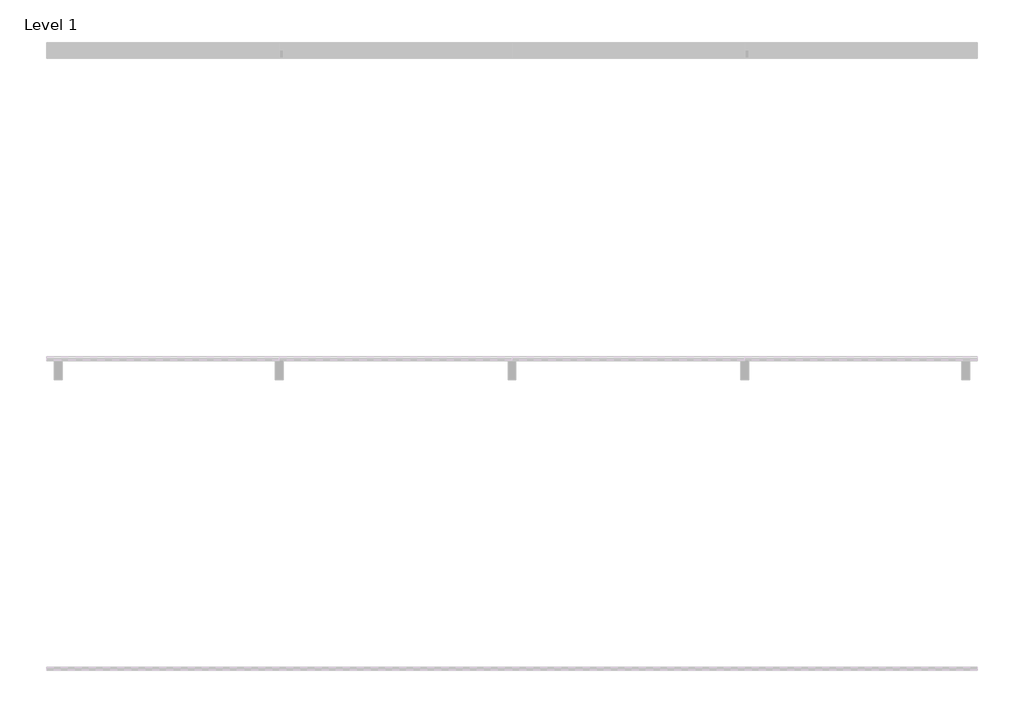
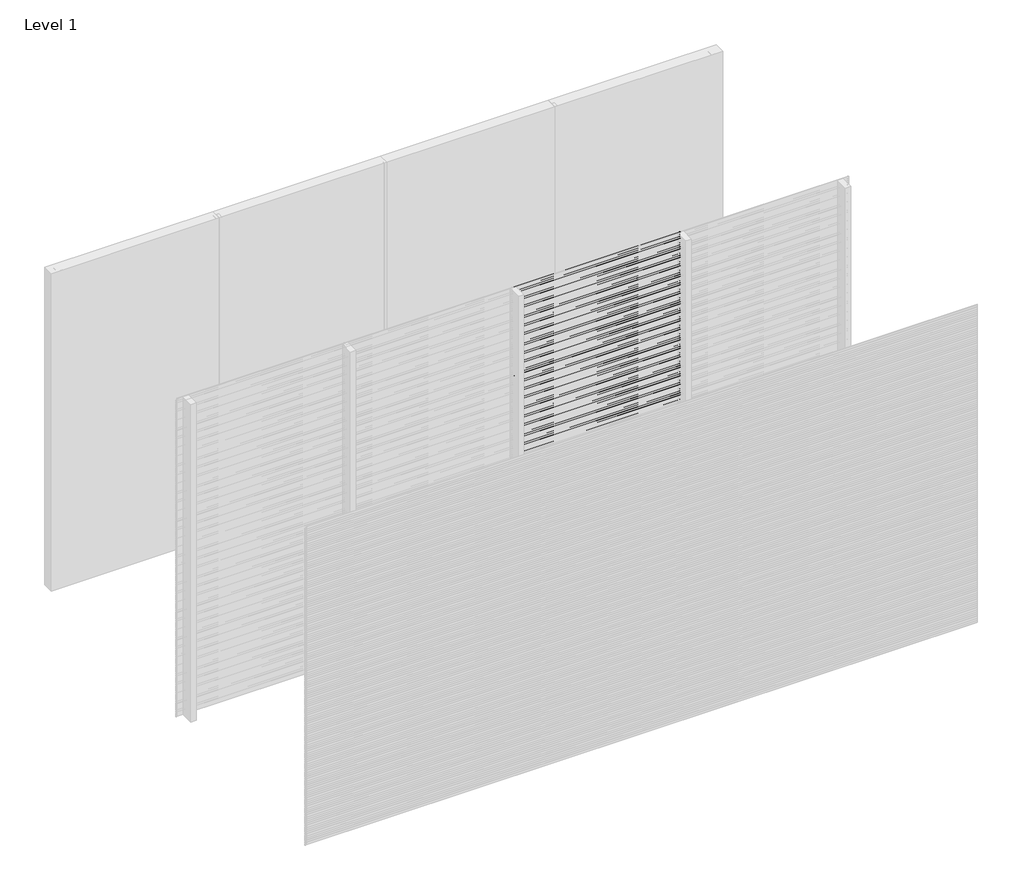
# One storey, part 6 of 31: 97 proxies.
"""IFC4 building model written with IfcOpenShell, lengths in millimetres."""

from ifc_helpers import new_model, si_unit, frame, origin, place, context, project, spatial, polyline, outline, extrude, element, save

model = new_model("IFC4")

# Units and contexts
model_context = context("Model", 3, world=origin())
ifc_project = project(units=[si_unit("LENGTHUNIT", "METRE", prefix="MILLI")], contexts=[model_context])

# Site, building, storey
site = spatial("IfcSite", under=ifc_project)
building = spatial("IfcBuilding", under=site)
storey = spatial("IfcBuildingStorey", under=building, Name="Level 1", Elevation=0.0)

# Proxies
placement = place(None, origin())
element("IfcBuildingElementProxy", 1, Name="Wall Sweeps", at=placement, inside=storey, context=model_context, shape_type="SweptSolid", body=[
    extrude(outline(polyline([(-17995.0, 3000.0), (-17995.0, 2988.942893), (-17976.0, 2973.0), (-17976.0, 2960.0), (-17997.0, 2977.6210923), (-17997.0, 3000.0), (-17995.0, 3000.0)])), frame((3000.0, 0.0, 0.0), z_axis=(1.0, 0.0, 0.0), x_axis=(0.0, 1.0, 0.0)), (0.0, 0.0, 1.0), 1499.9999998),
])
element("IfcBuildingElementProxy", 2, Name="Wall Sweeps", at=placement, inside=storey, context=model_context, shape_type="SweptSolid", body=[
    extrude(outline(polyline([(-17995.0, 2980.0), (-17995.0, 2968.942893), (-17976.0, 2953.0), (-17976.0, 2940.0), (-17997.0, 2957.6210923), (-17997.0, 2980.0), (-17995.0, 2980.0)])), frame((3000.0, 0.0, 0.0), z_axis=(1.0, 0.0, 0.0), x_axis=(0.0, 1.0, 0.0)), (0.0, 0.0, 1.0), 1499.9999998),
])
element("IfcBuildingElementProxy", 3, Name="Wall Sweeps", at=placement, inside=storey, context=model_context, shape_type="SweptSolid", body=[
    extrude(outline(polyline([(-17995.0, 2960.0), (-17995.0, 2948.942893), (-17976.0, 2933.0), (-17976.0, 2920.0), (-17997.0, 2937.6210923), (-17997.0, 2960.0), (-17995.0, 2960.0)])), frame((3000.0, 0.0, 0.0), z_axis=(1.0, 0.0, 0.0), x_axis=(0.0, 1.0, 0.0)), (0.0, 0.0, 1.0), 1499.9999998),
])
element("IfcBuildingElementProxy", 4, Name="Wall Sweeps", at=placement, inside=storey, context=model_context, shape_type="SweptSolid", body=[
    extrude(outline(polyline([(-17995.0, 2940.0), (-17995.0, 2928.942893), (-17976.0, 2913.0), (-17976.0, 2900.0), (-17997.0, 2917.6210923), (-17997.0, 2940.0), (-17995.0, 2940.0)])), frame((3000.0, 0.0, 0.0), z_axis=(1.0, 0.0, 0.0), x_axis=(0.0, 1.0, 0.0)), (0.0, 0.0, 1.0), 1499.9999998),
])
element("IfcBuildingElementProxy", 5, Name="Wall Sweeps", at=placement, inside=storey, context=model_context, shape_type="SweptSolid", body=[
    extrude(outline(polyline([(-17995.0, 2920.0), (-17995.0, 2908.942893), (-17976.0, 2893.0), (-17976.0, 2880.0), (-17997.0, 2897.6210923), (-17997.0, 2920.0), (-17995.0, 2920.0)])), frame((3000.0, 0.0, 0.0), z_axis=(1.0, 0.0, 0.0), x_axis=(0.0, 1.0, 0.0)), (0.0, 0.0, 1.0), 1499.9999998),
])
element("IfcBuildingElementProxy", 6, Name="Wall Sweeps", at=placement, inside=storey, context=model_context, shape_type="SweptSolid", body=[
    extrude(outline(polyline([(-17995.0, 2900.0), (-17995.0, 2888.942893), (-17976.0, 2873.0), (-17976.0, 2860.0), (-17997.0, 2877.6210923), (-17997.0, 2900.0), (-17995.0, 2900.0)])), frame((3000.0, 0.0, 0.0), z_axis=(1.0, 0.0, 0.0), x_axis=(0.0, 1.0, 0.0)), (0.0, 0.0, 1.0), 1499.9999998),
])
element("IfcBuildingElementProxy", 7, Name="Wall Sweeps", at=placement, inside=storey, context=model_context, shape_type="SweptSolid", body=[
    extrude(outline(polyline([(-17995.0, 2880.0), (-17995.0, 2868.942893), (-17976.0, 2853.0), (-17976.0, 2840.0), (-17997.0, 2857.6210923), (-17997.0, 2880.0), (-17995.0, 2880.0)])), frame((3000.0, 0.0, 0.0), z_axis=(1.0, 0.0, 0.0), x_axis=(0.0, 1.0, 0.0)), (0.0, 0.0, 1.0), 1499.9999998),
])
element("IfcBuildingElementProxy", 8, Name="Wall Sweeps", at=placement, inside=storey, context=model_context, shape_type="SweptSolid", body=[
    extrude(outline(polyline([(-17995.0, 2860.0), (-17995.0, 2848.942893), (-17976.0, 2833.0), (-17976.0, 2820.0), (-17997.0, 2837.6210923), (-17997.0, 2860.0), (-17995.0, 2860.0)])), frame((3000.0, 0.0, 0.0), z_axis=(1.0, 0.0, 0.0), x_axis=(0.0, 1.0, 0.0)), (0.0, 0.0, 1.0), 1499.9999998),
])
element("IfcBuildingElementProxy", 9, Name="Wall Sweeps", at=placement, inside=storey, context=model_context, shape_type="SweptSolid", body=[
    extrude(outline(polyline([(-17995.0, 2840.0), (-17995.0, 2828.942893), (-17976.0, 2813.0), (-17976.0, 2800.0), (-17997.0, 2817.6210923), (-17997.0, 2840.0), (-17995.0, 2840.0)])), frame((3000.0, 0.0, 0.0), z_axis=(1.0, 0.0, 0.0), x_axis=(0.0, 1.0, 0.0)), (0.0, 0.0, 1.0), 1499.9999998),
])
element("IfcBuildingElementProxy", 10, Name="Wall Sweeps", at=placement, inside=storey, context=model_context, shape_type="SweptSolid", body=[
    extrude(outline(polyline([(-17995.0, 2820.0), (-17995.0, 2808.942893), (-17976.0, 2793.0), (-17976.0, 2780.0), (-17997.0, 2797.6210923), (-17997.0, 2820.0), (-17995.0, 2820.0)])), frame((3000.0, 0.0, 0.0), z_axis=(1.0, 0.0, 0.0), x_axis=(0.0, 1.0, 0.0)), (0.0, 0.0, 1.0), 1499.9999998),
])
element("IfcBuildingElementProxy", 11, Name="Wall Sweeps", at=placement, inside=storey, context=model_context, shape_type="SweptSolid", body=[
    extrude(outline(polyline([(-17995.0, 2800.0), (-17995.0, 2788.942893), (-17976.0, 2773.0), (-17976.0, 2760.0), (-17997.0, 2777.6210923), (-17997.0, 2800.0), (-17995.0, 2800.0)])), frame((3000.0, 0.0, 0.0), z_axis=(1.0, 0.0, 0.0), x_axis=(0.0, 1.0, 0.0)), (0.0, 0.0, 1.0), 1499.9999998),
])
element("IfcBuildingElementProxy", 12, Name="Wall Sweeps", at=placement, inside=storey, context=model_context, shape_type="SweptSolid", body=[
    extrude(outline(polyline([(-17995.0, 2780.0), (-17995.0, 2768.942893), (-17976.0, 2753.0), (-17976.0, 2740.0), (-17997.0, 2757.6210923), (-17997.0, 2780.0), (-17995.0, 2780.0)])), frame((3000.0, 0.0, 0.0), z_axis=(1.0, 0.0, 0.0), x_axis=(0.0, 1.0, 0.0)), (0.0, 0.0, 1.0), 1499.9999998),
])
element("IfcBuildingElementProxy", 13, Name="Wall Sweeps", at=placement, inside=storey, context=model_context, shape_type="SweptSolid", body=[
    extrude(outline(polyline([(-17995.0, 2760.0), (-17995.0, 2748.942893), (-17976.0, 2733.0), (-17976.0, 2720.0), (-17997.0, 2737.6210923), (-17997.0, 2760.0), (-17995.0, 2760.0)])), frame((3000.0, 0.0, 0.0), z_axis=(1.0, 0.0, 0.0), x_axis=(0.0, 1.0, 0.0)), (0.0, 0.0, 1.0), 1499.9999998),
])
element("IfcBuildingElementProxy", 14, Name="Wall Sweeps", at=placement, inside=storey, context=model_context, shape_type="SweptSolid", body=[
    extrude(outline(polyline([(-17995.0, 2740.0), (-17995.0, 2728.942893), (-17976.0, 2713.0), (-17976.0, 2700.0), (-17997.0, 2717.6210923), (-17997.0, 2740.0), (-17995.0, 2740.0)])), frame((3000.0, 0.0, 0.0), z_axis=(1.0, 0.0, 0.0), x_axis=(0.0, 1.0, 0.0)), (0.0, 0.0, 1.0), 1499.9999998),
])
element("IfcBuildingElementProxy", 15, Name="Wall Sweeps", at=placement, inside=storey, context=model_context, shape_type="SweptSolid", body=[
    extrude(outline(polyline([(-17995.0, 2720.0), (-17995.0, 2708.942893), (-17976.0, 2693.0), (-17976.0, 2680.0), (-17997.0, 2697.6210923), (-17997.0, 2720.0), (-17995.0, 2720.0)])), frame((3000.0, 0.0, 0.0), z_axis=(1.0, 0.0, 0.0), x_axis=(0.0, 1.0, 0.0)), (0.0, 0.0, 1.0), 1499.9999998),
])
element("IfcBuildingElementProxy", 16, Name="Wall Sweeps", at=placement, inside=storey, context=model_context, shape_type="SweptSolid", body=[
    extrude(outline(polyline([(-17995.0, 2700.0), (-17995.0, 2688.942893), (-17976.0, 2673.0), (-17976.0, 2660.0), (-17997.0, 2677.6210923), (-17997.0, 2700.0), (-17995.0, 2700.0)])), frame((3000.0, 0.0, 0.0), z_axis=(1.0, 0.0, 0.0), x_axis=(0.0, 1.0, 0.0)), (0.0, 0.0, 1.0), 1499.9999998),
])
element("IfcBuildingElementProxy", 17, Name="Wall Sweeps", at=placement, inside=storey, context=model_context, shape_type="SweptSolid", body=[
    extrude(outline(polyline([(-17995.0, 2680.0), (-17995.0, 2668.942893), (-17976.0, 2653.0), (-17976.0, 2640.0), (-17997.0, 2657.6210923), (-17997.0, 2680.0), (-17995.0, 2680.0)])), frame((3000.0, 0.0, 0.0), z_axis=(1.0, 0.0, 0.0), x_axis=(0.0, 1.0, 0.0)), (0.0, 0.0, 1.0), 1499.9999998),
])
element("IfcBuildingElementProxy", 18, Name="Wall Sweeps", at=placement, inside=storey, context=model_context, shape_type="SweptSolid", body=[
    extrude(outline(polyline([(-17995.0, 2660.0), (-17995.0, 2648.942893), (-17976.0, 2633.0), (-17976.0, 2620.0), (-17997.0, 2637.6210923), (-17997.0, 2660.0), (-17995.0, 2660.0)])), frame((3000.0, 0.0, 0.0), z_axis=(1.0, 0.0, 0.0), x_axis=(0.0, 1.0, 0.0)), (0.0, 0.0, 1.0), 1499.9999998),
])
element("IfcBuildingElementProxy", 19, Name="Wall Sweeps", at=placement, inside=storey, context=model_context, shape_type="SweptSolid", body=[
    extrude(outline(polyline([(-17995.0, 2640.0), (-17995.0, 2628.942893), (-17976.0, 2613.0), (-17976.0, 2600.0), (-17997.0, 2617.6210923), (-17997.0, 2640.0), (-17995.0, 2640.0)])), frame((3000.0, 0.0, 0.0), z_axis=(1.0, 0.0, 0.0), x_axis=(0.0, 1.0, 0.0)), (0.0, 0.0, 1.0), 1499.9999998),
])
element("IfcBuildingElementProxy", 20, Name="Wall Sweeps", at=placement, inside=storey, context=model_context, shape_type="SweptSolid", body=[
    extrude(outline(polyline([(-17995.0, 2620.0), (-17995.0, 2608.942893), (-17976.0, 2593.0), (-17976.0, 2580.0), (-17997.0, 2597.6210923), (-17997.0, 2620.0), (-17995.0, 2620.0)])), frame((3000.0, 0.0, 0.0), z_axis=(1.0, 0.0, 0.0), x_axis=(0.0, 1.0, 0.0)), (0.0, 0.0, 1.0), 1499.9999998),
])
element("IfcBuildingElementProxy", 21, Name="Wall Sweeps", at=placement, inside=storey, context=model_context, shape_type="SweptSolid", body=[
    extrude(outline(polyline([(-17995.0, 2600.0), (-17995.0, 2588.942893), (-17976.0, 2573.0), (-17976.0, 2560.0), (-17997.0, 2577.6210923), (-17997.0, 2600.0), (-17995.0, 2600.0)])), frame((3000.0, 0.0, 0.0), z_axis=(1.0, 0.0, 0.0), x_axis=(0.0, 1.0, 0.0)), (0.0, 0.0, 1.0), 1499.9999998),
])
element("IfcBuildingElementProxy", 22, Name="Wall Sweeps", at=placement, inside=storey, context=model_context, shape_type="SweptSolid", body=[
    extrude(outline(polyline([(-17995.0, 2580.0), (-17995.0, 2568.942893), (-17976.0, 2553.0), (-17976.0, 2540.0), (-17997.0, 2557.6210923), (-17997.0, 2580.0), (-17995.0, 2580.0)])), frame((3000.0, 0.0, 0.0), z_axis=(1.0, 0.0, 0.0), x_axis=(0.0, 1.0, 0.0)), (0.0, 0.0, 1.0), 1499.9999998),
])
element("IfcBuildingElementProxy", 23, Name="Wall Sweeps", at=placement, inside=storey, context=model_context, shape_type="SweptSolid", body=[
    extrude(outline(polyline([(-17995.0, 2560.0), (-17995.0, 2548.942893), (-17976.0, 2533.0), (-17976.0, 2520.0), (-17997.0, 2537.6210923), (-17997.0, 2560.0), (-17995.0, 2560.0)])), frame((3000.0, 0.0, 0.0), z_axis=(1.0, 0.0, 0.0), x_axis=(0.0, 1.0, 0.0)), (0.0, 0.0, 1.0), 1499.9999998),
])
element("IfcBuildingElementProxy", 24, Name="Wall Sweeps", at=placement, inside=storey, context=model_context, shape_type="SweptSolid", body=[
    extrude(outline(polyline([(-17995.0, 2540.0), (-17995.0, 2528.942893), (-17976.0, 2513.0), (-17976.0, 2500.0), (-17997.0, 2517.6210923), (-17997.0, 2540.0), (-17995.0, 2540.0)])), frame((3000.0, 0.0, 0.0), z_axis=(1.0, 0.0, 0.0), x_axis=(0.0, 1.0, 0.0)), (0.0, 0.0, 1.0), 1499.9999998),
])
element("IfcBuildingElementProxy", 25, Name="Wall Sweeps", at=placement, inside=storey, context=model_context, shape_type="SweptSolid", body=[
    extrude(outline(polyline([(-17995.0, 2520.0), (-17995.0, 2508.942893), (-17976.0, 2493.0), (-17976.0, 2480.0), (-17997.0, 2497.6210923), (-17997.0, 2520.0), (-17995.0, 2520.0)])), frame((3000.0, 0.0, 0.0), z_axis=(1.0, 0.0, 0.0), x_axis=(0.0, 1.0, 0.0)), (0.0, 0.0, 1.0), 1499.9999998),
])
element("IfcBuildingElementProxy", 26, Name="Wall Sweeps", at=placement, inside=storey, context=model_context, shape_type="SweptSolid", body=[
    extrude(outline(polyline([(-17995.0, 2500.0), (-17995.0, 2488.942893), (-17976.0, 2473.0), (-17976.0, 2460.0), (-17997.0, 2477.6210923), (-17997.0, 2500.0), (-17995.0, 2500.0)])), frame((3000.0, 0.0, 0.0), z_axis=(1.0, 0.0, 0.0), x_axis=(0.0, 1.0, 0.0)), (0.0, 0.0, 1.0), 1499.9999998),
])
element("IfcBuildingElementProxy", 27, Name="Wall Sweeps", at=placement, inside=storey, context=model_context, shape_type="SweptSolid", body=[
    extrude(outline(polyline([(-17995.0, 2480.0), (-17995.0, 2468.942893), (-17976.0, 2453.0), (-17976.0, 2440.0), (-17997.0, 2457.6210923), (-17997.0, 2480.0), (-17995.0, 2480.0)])), frame((3000.0, 0.0, 0.0), z_axis=(1.0, 0.0, 0.0), x_axis=(0.0, 1.0, 0.0)), (0.0, 0.0, 1.0), 1499.9999998),
])
element("IfcBuildingElementProxy", 28, Name="Wall Sweeps", at=placement, inside=storey, context=model_context, shape_type="SweptSolid", body=[
    extrude(outline(polyline([(-17995.0, 2460.0), (-17995.0, 2448.942893), (-17976.0, 2433.0), (-17976.0, 2420.0), (-17997.0, 2437.6210923), (-17997.0, 2460.0), (-17995.0, 2460.0)])), frame((3000.0, 0.0, 0.0), z_axis=(1.0, 0.0, 0.0), x_axis=(0.0, 1.0, 0.0)), (0.0, 0.0, 1.0), 1499.9999998),
])
element("IfcBuildingElementProxy", 29, Name="Wall Sweeps", at=placement, inside=storey, context=model_context, shape_type="SweptSolid", body=[
    extrude(outline(polyline([(-17995.0, 2440.0), (-17995.0, 2428.942893), (-17976.0, 2413.0), (-17976.0, 2400.0), (-17997.0, 2417.6210923), (-17997.0, 2440.0), (-17995.0, 2440.0)])), frame((3000.0, 0.0, 0.0), z_axis=(1.0, 0.0, 0.0), x_axis=(0.0, 1.0, 0.0)), (0.0, 0.0, 1.0), 1499.9999998),
])
element("IfcBuildingElementProxy", 30, Name="Wall Sweeps", at=placement, inside=storey, context=model_context, shape_type="SweptSolid", body=[
    extrude(outline(polyline([(-17995.0, 2420.0), (-17995.0, 2408.942893), (-17976.0, 2393.0), (-17976.0, 2380.0), (-17997.0, 2397.6210923), (-17997.0, 2420.0), (-17995.0, 2420.0)])), frame((3000.0, 0.0, 0.0), z_axis=(1.0, 0.0, 0.0), x_axis=(0.0, 1.0, 0.0)), (0.0, 0.0, 1.0), 1499.9999998),
])
element("IfcBuildingElementProxy", 31, Name="Wall Sweeps", at=placement, inside=storey, context=model_context, shape_type="SweptSolid", body=[
    extrude(outline(polyline([(-17995.0, 2400.0), (-17995.0, 2388.942893), (-17976.0, 2373.0), (-17976.0, 2360.0), (-17997.0, 2377.6210923), (-17997.0, 2400.0), (-17995.0, 2400.0)])), frame((3000.0, 0.0, 0.0), z_axis=(1.0, 0.0, 0.0), x_axis=(0.0, 1.0, 0.0)), (0.0, 0.0, 1.0), 1499.9999998),
])
element("IfcBuildingElementProxy", 32, Name="Wall Sweeps", at=placement, inside=storey, context=model_context, shape_type="SweptSolid", body=[
    extrude(outline(polyline([(-17995.0, 2380.0), (-17995.0, 2368.942893), (-17976.0, 2353.0), (-17976.0, 2340.0), (-17997.0, 2357.6210923), (-17997.0, 2380.0), (-17995.0, 2380.0)])), frame((3000.0, 0.0, 0.0), z_axis=(1.0, 0.0, 0.0), x_axis=(0.0, 1.0, 0.0)), (0.0, 0.0, 1.0), 1499.9999998),
])
element("IfcBuildingElementProxy", 33, Name="Wall Sweeps", at=placement, inside=storey, context=model_context, shape_type="SweptSolid", body=[
    extrude(outline(polyline([(-17995.0, 2360.0), (-17995.0, 2348.942893), (-17976.0, 2333.0), (-17976.0, 2320.0), (-17997.0, 2337.6210923), (-17997.0, 2360.0), (-17995.0, 2360.0)])), frame((3000.0, 0.0, 0.0), z_axis=(1.0, 0.0, 0.0), x_axis=(0.0, 1.0, 0.0)), (0.0, 0.0, 1.0), 1499.9999998),
])
element("IfcBuildingElementProxy", 34, Name="Wall Sweeps", at=placement, inside=storey, context=model_context, shape_type="SweptSolid", body=[
    extrude(outline(polyline([(-17995.0, 2340.0), (-17995.0, 2328.942893), (-17976.0, 2313.0), (-17976.0, 2300.0), (-17997.0, 2317.6210923), (-17997.0, 2340.0), (-17995.0, 2340.0)])), frame((3000.0, 0.0, 0.0), z_axis=(1.0, 0.0, 0.0), x_axis=(0.0, 1.0, 0.0)), (0.0, 0.0, 1.0), 1499.9999998),
])
element("IfcBuildingElementProxy", 35, Name="Wall Sweeps", at=placement, inside=storey, context=model_context, shape_type="SweptSolid", body=[
    extrude(outline(polyline([(-17995.0, 2320.0), (-17995.0, 2308.942893), (-17976.0, 2293.0), (-17976.0, 2280.0), (-17997.0, 2297.6210923), (-17997.0, 2320.0), (-17995.0, 2320.0)])), frame((3000.0, 0.0, 0.0), z_axis=(1.0, 0.0, 0.0), x_axis=(0.0, 1.0, 0.0)), (0.0, 0.0, 1.0), 1499.9999998),
])
element("IfcBuildingElementProxy", 36, Name="Wall Sweeps", at=placement, inside=storey, context=model_context, shape_type="SweptSolid", body=[
    extrude(outline(polyline([(-17995.0, 2300.0), (-17995.0, 2288.942893), (-17976.0, 2273.0), (-17976.0, 2260.0), (-17997.0, 2277.6210923), (-17997.0, 2300.0), (-17995.0, 2300.0)])), frame((3000.0, 0.0, 0.0), z_axis=(1.0, 0.0, 0.0), x_axis=(0.0, 1.0, 0.0)), (0.0, 0.0, 1.0), 1499.9999998),
])
element("IfcBuildingElementProxy", 37, Name="Wall Sweeps", at=placement, inside=storey, context=model_context, shape_type="SweptSolid", body=[
    extrude(outline(polyline([(-17995.0, 2280.0), (-17995.0, 2268.942893), (-17976.0, 2253.0), (-17976.0, 2240.0), (-17997.0, 2257.6210923), (-17997.0, 2280.0), (-17995.0, 2280.0)])), frame((3000.0, 0.0, 0.0), z_axis=(1.0, 0.0, 0.0), x_axis=(0.0, 1.0, 0.0)), (0.0, 0.0, 1.0), 1499.9999998),
])
element("IfcBuildingElementProxy", 38, Name="Wall Sweeps", at=placement, inside=storey, context=model_context, shape_type="SweptSolid", body=[
    extrude(outline(polyline([(-17995.0, 2260.0), (-17995.0, 2248.942893), (-17976.0, 2233.0), (-17976.0, 2220.0), (-17997.0, 2237.6210923), (-17997.0, 2260.0), (-17995.0, 2260.0)])), frame((3000.0, 0.0, 0.0), z_axis=(1.0, 0.0, 0.0), x_axis=(0.0, 1.0, 0.0)), (0.0, 0.0, 1.0), 1499.9999998),
])
element("IfcBuildingElementProxy", 39, Name="Wall Sweeps", at=placement, inside=storey, context=model_context, shape_type="SweptSolid", body=[
    extrude(outline(polyline([(-17995.0, 2240.0), (-17995.0, 2228.942893), (-17976.0, 2213.0), (-17976.0, 2200.0), (-17997.0, 2217.6210923), (-17997.0, 2240.0), (-17995.0, 2240.0)])), frame((3000.0, 0.0, 0.0), z_axis=(1.0, 0.0, 0.0), x_axis=(0.0, 1.0, 0.0)), (0.0, 0.0, 1.0), 1499.9999998),
])
element("IfcBuildingElementProxy", 40, Name="Wall Sweeps", at=placement, inside=storey, context=model_context, shape_type="SweptSolid", body=[
    extrude(outline(polyline([(-17995.0, 2220.0), (-17995.0, 2208.942893), (-17976.0, 2193.0), (-17976.0, 2180.0), (-17997.0, 2197.6210923), (-17997.0, 2220.0), (-17995.0, 2220.0)])), frame((3000.0, 0.0, 0.0), z_axis=(1.0, 0.0, 0.0), x_axis=(0.0, 1.0, 0.0)), (0.0, 0.0, 1.0), 1499.9999998),
])
element("IfcBuildingElementProxy", 41, Name="Wall Sweeps", at=placement, inside=storey, context=model_context, shape_type="SweptSolid", body=[
    extrude(outline(polyline([(-17995.0, 2200.0), (-17995.0, 2188.942893), (-17976.0, 2173.0), (-17976.0, 2160.0), (-17997.0, 2177.6210923), (-17997.0, 2200.0), (-17995.0, 2200.0)])), frame((3000.0, 0.0, 0.0), z_axis=(1.0, 0.0, 0.0), x_axis=(0.0, 1.0, 0.0)), (0.0, 0.0, 1.0), 1499.9999998),
])
element("IfcBuildingElementProxy", 42, Name="Wall Sweeps", at=placement, inside=storey, context=model_context, shape_type="SweptSolid", body=[
    extrude(outline(polyline([(-17995.0, 2180.0), (-17995.0, 2168.942893), (-17976.0, 2153.0), (-17976.0, 2140.0), (-17997.0, 2157.6210923), (-17997.0, 2180.0), (-17995.0, 2180.0)])), frame((3000.0, 0.0, 0.0), z_axis=(1.0, 0.0, 0.0), x_axis=(0.0, 1.0, 0.0)), (0.0, 0.0, 1.0), 1499.9999998),
])
element("IfcBuildingElementProxy", 43, Name="Wall Sweeps", at=placement, inside=storey, context=model_context, shape_type="SweptSolid", body=[
    extrude(outline(polyline([(-17995.0, 2160.0), (-17995.0, 2148.942893), (-17976.0, 2133.0), (-17976.0, 2120.0), (-17997.0, 2137.6210923), (-17997.0, 2160.0), (-17995.0, 2160.0)])), frame((3000.0, 0.0, 0.0), z_axis=(1.0, 0.0, 0.0), x_axis=(0.0, 1.0, 0.0)), (0.0, 0.0, 1.0), 1499.9999998),
])
element("IfcBuildingElementProxy", 44, Name="Wall Sweeps", at=placement, inside=storey, context=model_context, shape_type="SweptSolid", body=[
    extrude(outline(polyline([(-17995.0, 2140.0), (-17995.0, 2128.942893), (-17976.0, 2113.0), (-17976.0, 2100.0), (-17997.0, 2117.6210923), (-17997.0, 2140.0), (-17995.0, 2140.0)])), frame((3000.0, 0.0, 0.0), z_axis=(1.0, 0.0, 0.0), x_axis=(0.0, 1.0, 0.0)), (0.0, 0.0, 1.0), 1499.9999998),
])
element("IfcBuildingElementProxy", 45, Name="Wall Sweeps", at=placement, inside=storey, context=model_context, shape_type="SweptSolid", body=[
    extrude(outline(polyline([(-17995.0, 2120.0), (-17995.0, 2108.942893), (-17976.0, 2093.0), (-17976.0, 2080.0), (-17997.0, 2097.6210923), (-17997.0, 2120.0), (-17995.0, 2120.0)])), frame((3000.0, 0.0, 0.0), z_axis=(1.0, 0.0, 0.0), x_axis=(0.0, 1.0, 0.0)), (0.0, 0.0, 1.0), 1499.9999998),
])
element("IfcBuildingElementProxy", 46, Name="Wall Sweeps", at=placement, inside=storey, context=model_context, shape_type="SweptSolid", body=[
    extrude(outline(polyline([(-17995.0, 2100.0), (-17995.0, 2088.942893), (-17976.0, 2073.0), (-17976.0, 2060.0), (-17997.0, 2077.6210923), (-17997.0, 2100.0), (-17995.0, 2100.0)])), frame((3000.0, 0.0, 0.0), z_axis=(1.0, 0.0, 0.0), x_axis=(0.0, 1.0, 0.0)), (0.0, 0.0, 1.0), 1499.9999998),
])
element("IfcBuildingElementProxy", 47, Name="Wall Sweeps", at=placement, inside=storey, context=model_context, shape_type="SweptSolid", body=[
    extrude(outline(polyline([(-17995.0, 2080.0), (-17995.0, 2068.942893), (-17976.0, 2053.0), (-17976.0, 2040.0), (-17997.0, 2057.6210923), (-17997.0, 2080.0), (-17995.0, 2080.0)])), frame((3000.0, 0.0, 0.0), z_axis=(1.0, 0.0, 0.0), x_axis=(0.0, 1.0, 0.0)), (0.0, 0.0, 1.0), 1499.9999998),
])
element("IfcBuildingElementProxy", 48, Name="Wall Sweeps", at=placement, inside=storey, context=model_context, shape_type="SweptSolid", body=[
    extrude(outline(polyline([(-17995.0, 2060.0), (-17995.0, 2048.942893), (-17976.0, 2033.0), (-17976.0, 2020.0), (-17997.0, 2037.6210923), (-17997.0, 2060.0), (-17995.0, 2060.0)])), frame((3000.0, 0.0, 0.0), z_axis=(1.0, 0.0, 0.0), x_axis=(0.0, 1.0, 0.0)), (0.0, 0.0, 1.0), 1499.9999998),
])
element("IfcBuildingElementProxy", 49, Name="Wall Sweeps", at=placement, inside=storey, context=model_context, shape_type="SweptSolid", body=[
    extrude(outline(polyline([(-17995.0, 2040.0), (-17995.0, 2028.942893), (-17976.0, 2013.0), (-17976.0, 2000.0), (-17997.0, 2017.6210923), (-17997.0, 2040.0), (-17995.0, 2040.0)])), frame((3000.0, 0.0, 0.0), z_axis=(1.0, 0.0, 0.0), x_axis=(0.0, 1.0, 0.0)), (0.0, 0.0, 1.0), 1499.9999998),
])
element("IfcBuildingElementProxy", 50, Name="Wall Sweeps", at=placement, inside=storey, context=model_context, shape_type="SweptSolid", body=[
    extrude(outline(polyline([(-17995.0, 2020.0), (-17995.0, 2008.942893), (-17976.0, 1993.0), (-17976.0, 1980.0), (-17997.0, 1997.6210923), (-17997.0, 2020.0), (-17995.0, 2020.0)])), frame((3000.0, 0.0, 0.0), z_axis=(1.0, 0.0, 0.0), x_axis=(0.0, 1.0, 0.0)), (0.0, 0.0, 1.0), 1499.9999998),
])
element("IfcBuildingElementProxy", 51, Name="Wall Sweeps", at=placement, inside=storey, context=model_context, shape_type="SweptSolid", body=[
    extrude(outline(polyline([(-17995.0, 2000.0), (-17995.0, 1988.942893), (-17976.0, 1973.0), (-17976.0, 1960.0), (-17997.0, 1977.6210923), (-17997.0, 2000.0), (-17995.0, 2000.0)])), frame((3000.0, 0.0, 0.0), z_axis=(1.0, 0.0, 0.0), x_axis=(0.0, 1.0, 0.0)), (0.0, 0.0, 1.0), 1499.9999998),
])
element("IfcBuildingElementProxy", 52, Name="Wall Sweeps", at=placement, inside=storey, context=model_context, shape_type="SweptSolid", body=[
    extrude(outline(polyline([(-17995.0, 1980.0), (-17995.0, 1968.942893), (-17976.0, 1953.0), (-17976.0, 1940.0), (-17997.0, 1957.6210923), (-17997.0, 1980.0), (-17995.0, 1980.0)])), frame((3000.0, 0.0, 0.0), z_axis=(1.0, 0.0, 0.0), x_axis=(0.0, 1.0, 0.0)), (0.0, 0.0, 1.0), 1499.9999998),
])
element("IfcBuildingElementProxy", 53, Name="Wall Sweeps", at=placement, inside=storey, context=model_context, shape_type="SweptSolid", body=[
    extrude(outline(polyline([(-17995.0, 1960.0), (-17995.0, 1948.942893), (-17976.0, 1933.0), (-17976.0, 1920.0), (-17997.0, 1937.6210923), (-17997.0, 1960.0), (-17995.0, 1960.0)])), frame((3000.0, 0.0, 0.0), z_axis=(1.0, 0.0, 0.0), x_axis=(0.0, 1.0, 0.0)), (0.0, 0.0, 1.0), 1499.9999998),
])
element("IfcBuildingElementProxy", 54, Name="Wall Sweeps", at=placement, inside=storey, context=model_context, shape_type="SweptSolid", body=[
    extrude(outline(polyline([(-17995.0, 1940.0), (-17995.0, 1928.942893), (-17976.0, 1913.0), (-17976.0, 1900.0), (-17997.0, 1917.6210923), (-17997.0, 1940.0), (-17995.0, 1940.0)])), frame((3000.0, 0.0, 0.0), z_axis=(1.0, 0.0, 0.0), x_axis=(0.0, 1.0, 0.0)), (0.0, 0.0, 1.0), 1499.9999998),
])
element("IfcBuildingElementProxy", 55, Name="Wall Sweeps", at=placement, inside=storey, context=model_context, shape_type="SweptSolid", body=[
    extrude(outline(polyline([(-17995.0, 1920.0), (-17995.0, 1908.942893), (-17976.0, 1893.0), (-17976.0, 1880.0), (-17997.0, 1897.6210923), (-17997.0, 1920.0), (-17995.0, 1920.0)])), frame((3000.0, 0.0, 0.0), z_axis=(1.0, 0.0, 0.0), x_axis=(0.0, 1.0, 0.0)), (0.0, 0.0, 1.0), 1499.9999998),
])
element("IfcBuildingElementProxy", 56, Name="Wall Sweeps", at=placement, inside=storey, context=model_context, shape_type="SweptSolid", body=[
    extrude(outline(polyline([(-17995.0, 1900.0), (-17995.0, 1888.942893), (-17976.0, 1873.0), (-17976.0, 1860.0), (-17997.0, 1877.6210923), (-17997.0, 1900.0), (-17995.0, 1900.0)])), frame((3000.0, 0.0, 0.0), z_axis=(1.0, 0.0, 0.0), x_axis=(0.0, 1.0, 0.0)), (0.0, 0.0, 1.0), 1499.9999998),
])
element("IfcBuildingElementProxy", 57, Name="Wall Sweeps", at=placement, inside=storey, context=model_context, shape_type="SweptSolid", body=[
    extrude(outline(polyline([(-17995.0, 1880.0), (-17995.0, 1868.942893), (-17976.0, 1853.0), (-17976.0, 1840.0), (-17997.0, 1857.6210923), (-17997.0, 1880.0), (-17995.0, 1880.0)])), frame((3000.0, 0.0, 0.0), z_axis=(1.0, 0.0, 0.0), x_axis=(0.0, 1.0, 0.0)), (0.0, 0.0, 1.0), 1499.9999998),
])
element("IfcBuildingElementProxy", 58, Name="Wall Sweeps", at=placement, inside=storey, context=model_context, shape_type="SweptSolid", body=[
    extrude(outline(polyline([(-17995.0, 1860.0), (-17995.0, 1848.942893), (-17976.0, 1833.0), (-17976.0, 1820.0), (-17997.0, 1837.6210923), (-17997.0, 1860.0), (-17995.0, 1860.0)])), frame((3000.0, 0.0, 0.0), z_axis=(1.0, 0.0, 0.0), x_axis=(0.0, 1.0, 0.0)), (0.0, 0.0, 1.0), 1499.9999998),
])
element("IfcBuildingElementProxy", 59, Name="Wall Sweeps", at=placement, inside=storey, context=model_context, shape_type="SweptSolid", body=[
    extrude(outline(polyline([(-17995.0, 1840.0), (-17995.0, 1828.942893), (-17976.0, 1813.0), (-17976.0, 1800.0), (-17997.0, 1817.6210923), (-17997.0, 1840.0), (-17995.0, 1840.0)])), frame((3000.0, 0.0, 0.0), z_axis=(1.0, 0.0, 0.0), x_axis=(0.0, 1.0, 0.0)), (0.0, 0.0, 1.0), 1499.9999998),
])
element("IfcBuildingElementProxy", 60, Name="Wall Sweeps", at=placement, inside=storey, context=model_context, shape_type="SweptSolid", body=[
    extrude(outline(polyline([(-17995.0, 1820.0), (-17995.0, 1808.942893), (-17976.0, 1793.0), (-17976.0, 1780.0), (-17997.0, 1797.6210923), (-17997.0, 1820.0), (-17995.0, 1820.0)])), frame((3000.0, 0.0, 0.0), z_axis=(1.0, 0.0, 0.0), x_axis=(0.0, 1.0, 0.0)), (0.0, 0.0, 1.0), 1499.9999998),
])
element("IfcBuildingElementProxy", 61, Name="Wall Sweeps", at=placement, inside=storey, context=model_context, shape_type="SweptSolid", body=[
    extrude(outline(polyline([(-17995.0, 1800.0), (-17995.0, 1788.942893), (-17976.0, 1773.0), (-17976.0, 1760.0), (-17997.0, 1777.6210923), (-17997.0, 1800.0), (-17995.0, 1800.0)])), frame((3000.0, 0.0, 0.0), z_axis=(1.0, 0.0, 0.0), x_axis=(0.0, 1.0, 0.0)), (0.0, 0.0, 1.0), 1499.9999998),
])
element("IfcBuildingElementProxy", 62, Name="Wall Sweeps", at=placement, inside=storey, context=model_context, shape_type="SweptSolid", body=[
    extrude(outline(polyline([(-17995.0, 1780.0), (-17995.0, 1768.942893), (-17976.0, 1753.0), (-17976.0, 1740.0), (-17997.0, 1757.6210923), (-17997.0, 1780.0), (-17995.0, 1780.0)])), frame((3000.0, 0.0, 0.0), z_axis=(1.0, 0.0, 0.0), x_axis=(0.0, 1.0, 0.0)), (0.0, 0.0, 1.0), 1499.9999998),
])
element("IfcBuildingElementProxy", 63, Name="Wall Sweeps", at=placement, inside=storey, context=model_context, shape_type="SweptSolid", body=[
    extrude(outline(polyline([(-17995.0, 1760.0), (-17995.0, 1748.942893), (-17976.0, 1733.0), (-17976.0, 1720.0), (-17997.0, 1737.6210923), (-17997.0, 1760.0), (-17995.0, 1760.0)])), frame((3000.0, 0.0, 0.0), z_axis=(1.0, 0.0, 0.0), x_axis=(0.0, 1.0, 0.0)), (0.0, 0.0, 1.0), 1499.9999998),
])
element("IfcBuildingElementProxy", 64, Name="Wall Sweeps", at=placement, inside=storey, context=model_context, shape_type="SweptSolid", body=[
    extrude(outline(polyline([(-17995.0, 1740.0), (-17995.0, 1728.942893), (-17976.0, 1713.0), (-17976.0, 1700.0), (-17997.0, 1717.6210923), (-17997.0, 1740.0), (-17995.0, 1740.0)])), frame((3000.0, 0.0, 0.0), z_axis=(1.0, 0.0, 0.0), x_axis=(0.0, 1.0, 0.0)), (0.0, 0.0, 1.0), 1499.9999998),
])
element("IfcBuildingElementProxy", 65, Name="Wall Sweeps", at=placement, inside=storey, context=model_context, shape_type="SweptSolid", body=[
    extrude(outline(polyline([(-17995.0, 1720.0), (-17995.0, 1708.942893), (-17976.0, 1693.0), (-17976.0, 1680.0), (-17997.0, 1697.6210923), (-17997.0, 1720.0), (-17995.0, 1720.0)])), frame((3000.0, 0.0, 0.0), z_axis=(1.0, 0.0, 0.0), x_axis=(0.0, 1.0, 0.0)), (0.0, 0.0, 1.0), 1499.9999998),
])
element("IfcBuildingElementProxy", 66, Name="Wall Sweeps", at=placement, inside=storey, context=model_context, shape_type="SweptSolid", body=[
    extrude(outline(polyline([(-17995.0, 1700.0), (-17995.0, 1688.942893), (-17976.0, 1673.0), (-17976.0, 1660.0), (-17997.0, 1677.6210923), (-17997.0, 1700.0), (-17995.0, 1700.0)])), frame((3000.0, 0.0, 0.0), z_axis=(1.0, 0.0, 0.0), x_axis=(0.0, 1.0, 0.0)), (0.0, 0.0, 1.0), 1499.9999998),
])
element("IfcBuildingElementProxy", 67, Name="Wall Sweeps", at=placement, inside=storey, context=model_context, shape_type="SweptSolid", body=[
    extrude(outline(polyline([(-17995.0, 1680.0), (-17995.0, 1668.942893), (-17976.0, 1653.0), (-17976.0, 1640.0), (-17997.0, 1657.6210923), (-17997.0, 1680.0), (-17995.0, 1680.0)])), frame((3000.0, 0.0, 0.0), z_axis=(1.0, 0.0, 0.0), x_axis=(0.0, 1.0, 0.0)), (0.0, 0.0, 1.0), 1499.9999998),
])
element("IfcBuildingElementProxy", 68, Name="Wall Sweeps", at=placement, inside=storey, context=model_context, shape_type="SweptSolid", body=[
    extrude(outline(polyline([(-17995.0, 1660.0), (-17995.0, 1648.942893), (-17976.0, 1633.0), (-17976.0, 1620.0), (-17997.0, 1637.6210923), (-17997.0, 1660.0), (-17995.0, 1660.0)])), frame((3000.0, 0.0, 0.0), z_axis=(1.0, 0.0, 0.0), x_axis=(0.0, 1.0, 0.0)), (0.0, 0.0, 1.0), 1499.9999998),
])
element("IfcBuildingElementProxy", 69, Name="Wall Sweeps", at=placement, inside=storey, context=model_context, shape_type="SweptSolid", body=[
    extrude(outline(polyline([(-17995.0, 1640.0), (-17995.0, 1628.942893), (-17976.0, 1613.0), (-17976.0, 1600.0), (-17997.0, 1617.6210923), (-17997.0, 1640.0), (-17995.0, 1640.0)])), frame((3000.0, 0.0, 0.0), z_axis=(1.0, 0.0, 0.0), x_axis=(0.0, 1.0, 0.0)), (0.0, 0.0, 1.0), 1499.9999998),
])
element("IfcBuildingElementProxy", 70, Name="Wall Sweeps", at=placement, inside=storey, context=model_context, shape_type="SweptSolid", body=[
    extrude(outline(polyline([(-17995.0, 1620.0), (-17995.0, 1608.942893), (-17976.0, 1593.0), (-17976.0, 1580.0), (-17997.0, 1597.6210923), (-17997.0, 1620.0), (-17995.0, 1620.0)])), frame((3000.0, 0.0, 0.0), z_axis=(1.0, 0.0, 0.0), x_axis=(0.0, 1.0, 0.0)), (0.0, 0.0, 1.0), 1499.9999998),
])
element("IfcBuildingElementProxy", 71, Name="Wall Sweeps", at=placement, inside=storey, context=model_context, shape_type="SweptSolid", body=[
    extrude(outline(polyline([(-17995.0, 1600.0), (-17995.0, 1588.942893), (-17976.0, 1573.0), (-17976.0, 1560.0), (-17997.0, 1577.6210923), (-17997.0, 1600.0), (-17995.0, 1600.0)])), frame((3000.0, 0.0, 0.0), z_axis=(1.0, 0.0, 0.0), x_axis=(0.0, 1.0, 0.0)), (0.0, 0.0, 1.0), 1499.9999998),
])
element("IfcBuildingElementProxy", 72, Name="Wall Sweeps", at=placement, inside=storey, context=model_context, shape_type="SweptSolid", body=[
    extrude(outline(polyline([(-17995.0, 1580.0), (-17995.0, 1568.942893), (-17976.0, 1553.0), (-17976.0, 1540.0), (-17997.0, 1557.6210923), (-17997.0, 1580.0), (-17995.0, 1580.0)])), frame((3000.0, 0.0, 0.0), z_axis=(1.0, 0.0, 0.0), x_axis=(0.0, 1.0, 0.0)), (0.0, 0.0, 1.0), 1499.9999998),
])
element("IfcBuildingElementProxy", 73, Name="Wall Sweeps", at=placement, inside=storey, context=model_context, shape_type="SweptSolid", body=[
    extrude(outline(polyline([(-17995.0, 1560.0), (-17995.0, 1548.942893), (-17976.0, 1533.0), (-17976.0, 1520.0), (-17997.0, 1537.6210923), (-17997.0, 1560.0), (-17995.0, 1560.0)])), frame((3000.0, 0.0, 0.0), z_axis=(1.0, 0.0, 0.0), x_axis=(0.0, 1.0, 0.0)), (0.0, 0.0, 1.0), 1499.9999998),
])
element("IfcBuildingElementProxy", 74, Name="Wall Sweeps", at=placement, inside=storey, context=model_context, shape_type="SweptSolid", body=[
    extrude(outline(polyline([(-17995.0, 1540.0), (-17995.0, 1528.942893), (-17976.0, 1513.0), (-17976.0, 1500.0), (-17997.0, 1517.6210923), (-17997.0, 1540.0), (-17995.0, 1540.0)])), frame((3000.0, 0.0, 0.0), z_axis=(1.0, 0.0, 0.0), x_axis=(0.0, 1.0, 0.0)), (0.0, 0.0, 1.0), 1499.9999998),
])
element("IfcBuildingElementProxy", 75, Name="Wall Sweeps", at=placement, inside=storey, context=model_context, shape_type="SweptSolid", body=[
    extrude(outline(polyline([(-17995.0, 1520.0), (-17995.0, 1508.942893), (-17976.0, 1493.0), (-17976.0, 1480.0), (-17997.0, 1497.6210923), (-17997.0, 1520.0), (-17995.0, 1520.0)])), frame((3000.0, 0.0, 0.0), z_axis=(1.0, 0.0, 0.0), x_axis=(0.0, 1.0, 0.0)), (0.0, 0.0, 1.0), 1499.9999998),
])
element("IfcBuildingElementProxy", 76, Name="Wall Sweeps", at=placement, inside=storey, context=model_context, shape_type="SweptSolid", body=[
    extrude(outline(polyline([(-17995.0, 1500.0), (-17995.0, 1488.942893), (-17976.0, 1473.0), (-17976.0, 1460.0), (-17997.0, 1477.6210923), (-17997.0, 1500.0), (-17995.0, 1500.0)])), frame((3000.0, 0.0, 0.0), z_axis=(1.0, 0.0, 0.0), x_axis=(0.0, 1.0, 0.0)), (0.0, 0.0, 1.0), 1499.9999998),
])
element("IfcBuildingElementProxy", 77, Name="Wall Sweeps", at=placement, inside=storey, context=model_context, shape_type="SweptSolid", body=[
    extrude(outline(polyline([(-17995.0, 1480.0), (-17995.0, 1468.942893), (-17976.0, 1453.0), (-17976.0, 1440.0), (-17997.0, 1457.6210923), (-17997.0, 1480.0), (-17995.0, 1480.0)])), frame((3000.0, 0.0, 0.0), z_axis=(1.0, 0.0, 0.0), x_axis=(0.0, 1.0, 0.0)), (0.0, 0.0, 1.0), 1499.9999998),
])
element("IfcBuildingElementProxy", 78, Name="Wall Sweeps", at=placement, inside=storey, context=model_context, shape_type="SweptSolid", body=[
    extrude(outline(polyline([(-17995.0, 1460.0), (-17995.0, 1448.942893), (-17976.0, 1433.0), (-17976.0, 1420.0), (-17997.0, 1437.6210923), (-17997.0, 1460.0), (-17995.0, 1460.0)])), frame((3000.0, 0.0, 0.0), z_axis=(1.0, 0.0, 0.0), x_axis=(0.0, 1.0, 0.0)), (0.0, 0.0, 1.0), 1499.9999998),
])
element("IfcBuildingElementProxy", 79, Name="Wall Sweeps", at=placement, inside=storey, context=model_context, shape_type="SweptSolid", body=[
    extrude(outline(polyline([(-17995.0, 1440.0), (-17995.0, 1428.942893), (-17976.0, 1413.0), (-17976.0, 1400.0), (-17997.0, 1417.6210923), (-17997.0, 1440.0), (-17995.0, 1440.0)])), frame((3000.0, 0.0, 0.0), z_axis=(1.0, 0.0, 0.0), x_axis=(0.0, 1.0, 0.0)), (0.0, 0.0, 1.0), 1499.9999998),
])
element("IfcBuildingElementProxy", 80, Name="Wall Sweeps", at=placement, inside=storey, context=model_context, shape_type="SweptSolid", body=[
    extrude(outline(polyline([(-17995.0, 360.0), (-17995.0, 348.942893), (-17976.0, 333.0), (-17976.0, 320.0), (-17997.0, 337.6210923), (-17997.0, 360.0), (-17995.0, 360.0)])), frame((1500.0000002, 0.0, 0.0), z_axis=(1.0, 0.0, 0.0), x_axis=(0.0, 1.0, 0.0)), (0.0, 0.0, 1.0), 1499.9999998),
])
element("IfcBuildingElementProxy", 81, Name="Wall Sweeps", at=placement, inside=storey, context=model_context, shape_type="SweptSolid", body=[
    extrude(outline(polyline([(-17995.0, 340.0), (-17995.0, 328.942893), (-17976.0, 313.0), (-17976.0, 300.0), (-17997.0, 317.6210923), (-17997.0, 340.0), (-17995.0, 340.0)])), frame((1500.0000002, 0.0, 0.0), z_axis=(1.0, 0.0, 0.0), x_axis=(0.0, 1.0, 0.0)), (0.0, 0.0, 1.0), 1499.9999998),
])
element("IfcBuildingElementProxy", 82, Name="Wall Sweeps", at=placement, inside=storey, context=model_context, shape_type="SweptSolid", body=[
    extrude(outline(polyline([(-17995.0, 320.0), (-17995.0, 308.942893), (-17976.0, 293.0), (-17976.0, 280.0), (-17997.0, 297.6210923), (-17997.0, 320.0), (-17995.0, 320.0)])), frame((1500.0000002, 0.0, 0.0), z_axis=(1.0, 0.0, 0.0), x_axis=(0.0, 1.0, 0.0)), (0.0, 0.0, 1.0), 1499.9999998),
])
element("IfcBuildingElementProxy", 83, Name="Wall Sweeps", at=placement, inside=storey, context=model_context, shape_type="SweptSolid", body=[
    extrude(outline(polyline([(-17995.0, 300.0), (-17995.0, 288.942893), (-17976.0, 273.0), (-17976.0, 260.0), (-17997.0, 277.6210923), (-17997.0, 300.0), (-17995.0, 300.0)])), frame((1500.0000002, 0.0, 0.0), z_axis=(1.0, 0.0, 0.0), x_axis=(0.0, 1.0, 0.0)), (0.0, 0.0, 1.0), 1499.9999998),
])
element("IfcBuildingElementProxy", 84, Name="Wall Sweeps", at=placement, inside=storey, context=model_context, shape_type="SweptSolid", body=[
    extrude(outline(polyline([(-17995.0, 280.0), (-17995.0, 268.942893), (-17976.0, 253.0), (-17976.0, 240.0), (-17997.0, 257.6210923), (-17997.0, 280.0), (-17995.0, 280.0)])), frame((1500.0000002, 0.0, 0.0), z_axis=(1.0, 0.0, 0.0), x_axis=(0.0, 1.0, 0.0)), (0.0, 0.0, 1.0), 1499.9999998),
])
element("IfcBuildingElementProxy", 85, Name="Wall Sweeps", at=placement, inside=storey, context=model_context, shape_type="SweptSolid", body=[
    extrude(outline(polyline([(-17995.0, 260.0), (-17995.0, 248.942893), (-17976.0, 233.0), (-17976.0, 220.0), (-17997.0, 237.6210923), (-17997.0, 260.0), (-17995.0, 260.0)])), frame((1500.0000002, 0.0, 0.0), z_axis=(1.0, 0.0, 0.0), x_axis=(0.0, 1.0, 0.0)), (0.0, 0.0, 1.0), 1499.9999998),
])
element("IfcBuildingElementProxy", 86, Name="Wall Sweeps", at=placement, inside=storey, context=model_context, shape_type="SweptSolid", body=[
    extrude(outline(polyline([(-17995.0, 240.0), (-17995.0, 228.942893), (-17976.0, 213.0), (-17976.0, 200.0), (-17997.0, 217.6210923), (-17997.0, 240.0), (-17995.0, 240.0)])), frame((1500.0000002, 0.0, 0.0), z_axis=(1.0, 0.0, 0.0), x_axis=(0.0, 1.0, 0.0)), (0.0, 0.0, 1.0), 1499.9999998),
])
element("IfcBuildingElementProxy", 87, Name="Wall Sweeps", at=placement, inside=storey, context=model_context, shape_type="SweptSolid", body=[
    extrude(outline(polyline([(-17995.0, 220.0), (-17995.0, 208.942893), (-17976.0, 193.0), (-17976.0, 180.0), (-17997.0, 197.6210923), (-17997.0, 220.0), (-17995.0, 220.0)])), frame((1500.0000002, 0.0, 0.0), z_axis=(1.0, 0.0, 0.0), x_axis=(0.0, 1.0, 0.0)), (0.0, 0.0, 1.0), 1499.9999998),
])
element("IfcBuildingElementProxy", 88, Name="Wall Sweeps", at=placement, inside=storey, context=model_context, shape_type="SweptSolid", body=[
    extrude(outline(polyline([(-17995.0, 200.0), (-17995.0, 188.942893), (-17976.0, 173.0), (-17976.0, 160.0), (-17997.0, 177.6210923), (-17997.0, 200.0), (-17995.0, 200.0)])), frame((1500.0000002, 0.0, 0.0), z_axis=(1.0, 0.0, 0.0), x_axis=(0.0, 1.0, 0.0)), (0.0, 0.0, 1.0), 1499.9999998),
])
element("IfcBuildingElementProxy", 89, Name="Wall Sweeps", at=placement, inside=storey, context=model_context, shape_type="SweptSolid", body=[
    extrude(outline(polyline([(-17995.0, 180.0), (-17995.0, 168.942893), (-17976.0, 153.0), (-17976.0, 140.0), (-17997.0, 157.6210923), (-17997.0, 180.0), (-17995.0, 180.0)])), frame((1500.0000002, 0.0, 0.0), z_axis=(1.0, 0.0, 0.0), x_axis=(0.0, 1.0, 0.0)), (0.0, 0.0, 1.0), 1499.9999998),
])
element("IfcBuildingElementProxy", 90, Name="Wall Sweeps", at=placement, inside=storey, context=model_context, shape_type="SweptSolid", body=[
    extrude(outline(polyline([(-17995.0, 160.0), (-17995.0, 148.942893), (-17976.0, 133.0), (-17976.0, 120.0), (-17997.0, 137.6210923), (-17997.0, 160.0), (-17995.0, 160.0)])), frame((1500.0000002, 0.0, 0.0), z_axis=(1.0, 0.0, 0.0), x_axis=(0.0, 1.0, 0.0)), (0.0, 0.0, 1.0), 1499.9999998),
])
element("IfcBuildingElementProxy", 91, Name="Wall Sweeps", at=placement, inside=storey, context=model_context, shape_type="SweptSolid", body=[
    extrude(outline(polyline([(-17995.0, 140.0), (-17995.0, 128.942893), (-17976.0, 113.0), (-17976.0, 100.0), (-17997.0, 117.6210923), (-17997.0, 140.0), (-17995.0, 140.0)])), frame((1500.0000002, 0.0, 0.0), z_axis=(1.0, 0.0, 0.0), x_axis=(0.0, 1.0, 0.0)), (0.0, 0.0, 1.0), 1499.9999998),
])
element("IfcBuildingElementProxy", 92, Name="Wall Sweeps", at=placement, inside=storey, context=model_context, shape_type="SweptSolid", body=[
    extrude(outline(polyline([(-17995.0, 120.0), (-17995.0, 108.942893), (-17976.0, 93.0), (-17976.0, 80.0), (-17997.0, 97.6210923), (-17997.0, 120.0), (-17995.0, 120.0)])), frame((1500.0000002, 0.0, 0.0), z_axis=(1.0, 0.0, 0.0), x_axis=(0.0, 1.0, 0.0)), (0.0, 0.0, 1.0), 1499.9999998),
])
element("IfcBuildingElementProxy", 93, Name="Wall Sweeps", at=placement, inside=storey, context=model_context, shape_type="SweptSolid", body=[
    extrude(outline(polyline([(-17995.0, 100.0), (-17995.0, 88.942893), (-17976.0, 73.0), (-17976.0, 60.0), (-17997.0, 77.6210923), (-17997.0, 100.0), (-17995.0, 100.0)])), frame((1500.0000002, 0.0, 0.0), z_axis=(1.0, 0.0, 0.0), x_axis=(0.0, 1.0, 0.0)), (0.0, 0.0, 1.0), 1499.9999998),
])
element("IfcBuildingElementProxy", 94, Name="Wall Sweeps", at=placement, inside=storey, context=model_context, shape_type="SweptSolid", body=[
    extrude(outline(polyline([(-17995.0, 80.0), (-17995.0, 68.942893), (-17976.0, 53.0), (-17976.0, 40.0), (-17997.0, 57.6210923), (-17997.0, 80.0), (-17995.0, 80.0)])), frame((1500.0000002, 0.0, 0.0), z_axis=(1.0, 0.0, 0.0), x_axis=(0.0, 1.0, 0.0)), (0.0, 0.0, 1.0), 1499.9999998),
])
element("IfcBuildingElementProxy", 95, Name="Wall Sweeps", at=placement, inside=storey, context=model_context, shape_type="SweptSolid", body=[
    extrude(outline(polyline([(-17995.0, 60.0), (-17995.0, 48.942893), (-17976.0, 33.0), (-17976.0, 20.0), (-17997.0, 37.6210923), (-17997.0, 60.0), (-17995.0, 60.0)])), frame((1500.0000002, 0.0, 0.0), z_axis=(1.0, 0.0, 0.0), x_axis=(0.0, 1.0, 0.0)), (0.0, 0.0, 1.0), 1499.9999998),
])
element("IfcBuildingElementProxy", 96, Name="Wall Sweeps", at=placement, inside=storey, context=model_context, shape_type="SweptSolid", body=[
    extrude(outline(polyline([(-17995.0, 40.0), (-17995.0, 28.942893), (-17976.0, 13.0), (-17976.0, 0.0), (-17997.0, 17.6210923), (-17997.0, 40.0), (-17995.0, 40.0)])), frame((1500.0000002, 0.0, 0.0), z_axis=(1.0, 0.0, 0.0), x_axis=(0.0, 1.0, 0.0)), (0.0, 0.0, 1.0), 1499.9999998),
])
element("IfcBuildingElementProxy", 97, Name="Wall Sweeps", at=placement, inside=storey, context=model_context, shape_type="SweptSolid", body=[
    extrude(outline(polyline([(-17995.0, 20.0), (-17995.0, 8.942893), (-17976.0, -7.0), (-17976.0, -20.0), (-17997.0, -2.3789077), (-17997.0, 20.0), (-17995.0, 20.0)])), frame((1500.0000002, 0.0, 0.0), z_axis=(1.0, 0.0, 0.0), x_axis=(0.0, 1.0, 0.0)), (0.0, 0.0, 1.0), 1499.9999998),
])

save(model, "model.ifc")
